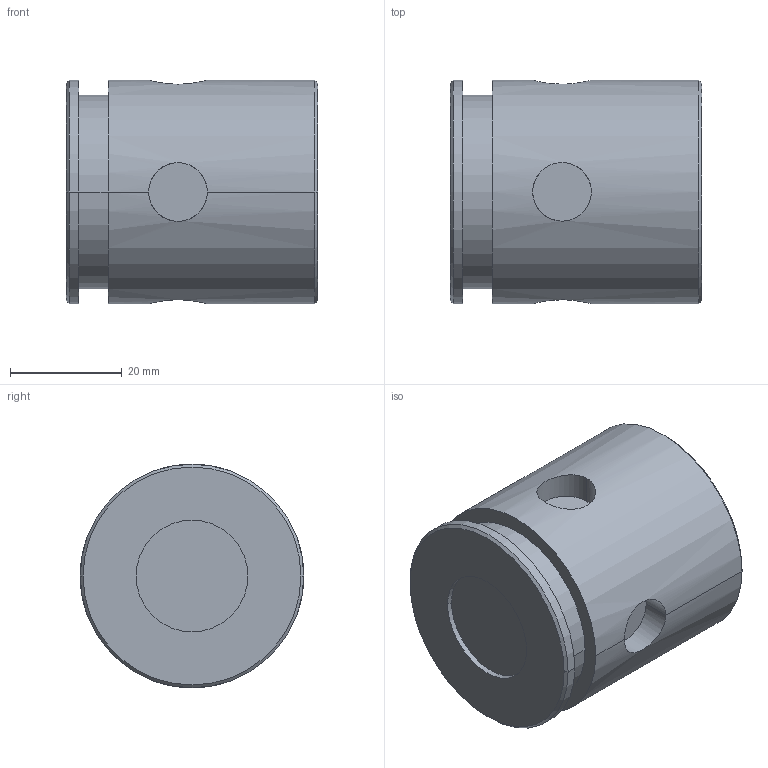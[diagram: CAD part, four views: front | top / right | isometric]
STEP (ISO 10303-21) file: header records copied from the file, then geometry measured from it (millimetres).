
FILE_DESCRIPTION((''),'2;1');
FILE_NAME('VJ3_20_030_03_226969','2021-06-02T',('l.soukupova'),(''),'PRO/ENGINEER BY PARAMETRIC TECHNOLOGY CORPORATION, 2015440','PRO/ENGINEER BY PARAMETRIC TECHNOLOGY CORPORATION, 2015440','');
FILE_SCHEMA(('AUTOMOTIVE_DESIGN { 1 0 10303 214 1 1 1 1 }'));
Length unit declared in the file: millimetre
Products named in the file (1): VJ3_20_030_03_226969
Bounding box: 45 x 40 x 40 mm (x, y, z)
Volume: 51441.2 mm3; surface area: 9498.7 mm2
Topology: 1 solids, 1 shells, 32 faces, 69 edges, 50 vertices
Faces by surface type: cylinder 18, plane 10, cone 4
Entity records: 1480 total; most frequent: CARTESIAN_POINT 488, DIRECTION 159, ORIENTED_EDGE 128, PRESENTATION_STYLE_ASSIGNMENT 71, STYLED_ITEM 71, CURVE_STYLE 70, AXIS2_PLACEMENT_3D 65, EDGE_CURVE 64
